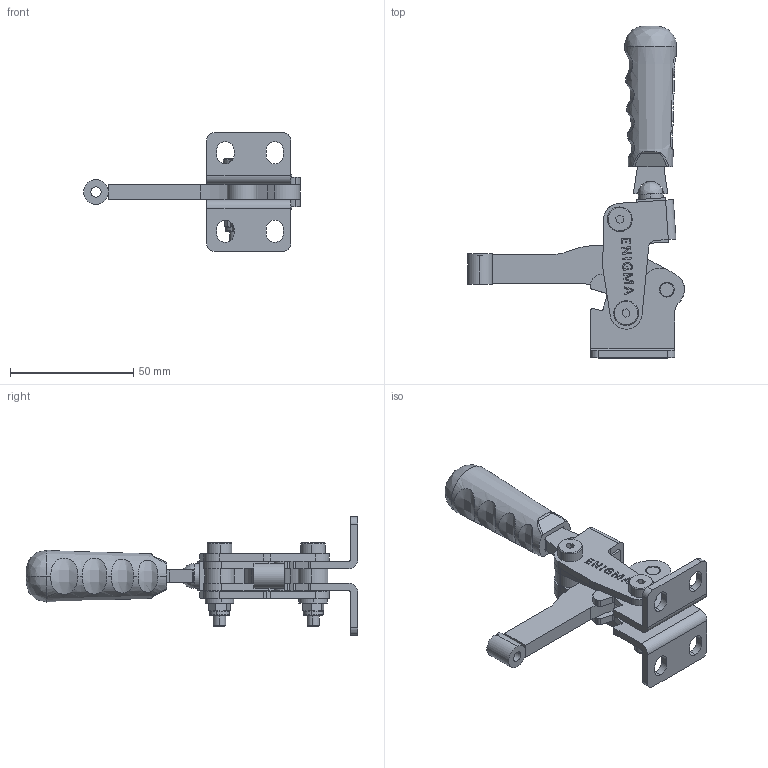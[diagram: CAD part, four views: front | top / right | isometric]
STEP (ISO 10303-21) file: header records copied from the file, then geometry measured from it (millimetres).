
FILE_DESCRIPTION (( 'STEP AP203' ), '1' );
FILE_NAME ('1581_Y.STEP', '2022-11-30T09:18:52', ( '' ), ( '' ), 'SwSTEP 2.0', 'SolidWorks 2023', '' );
FILE_SCHEMA (( 'CONFIG_CONTROL_DESIGN' ));
Length unit declared in the file: millimetre
Products named in the file (15): 1581_HAREKET_KOLU_SAPI; 1581_Rondela; Ağır_Seri_Ø6x12_Tırtıllı_Pim; 1531_1581_BASKI_KOLU; M5_Lama_Kaynak_Somunu; G39_M5_6x20_Yay_Askı_Civatası; 1531_1581_Y_GÖVDE; 1581_Y; Aynalama1531_1581_Y_GÖVDE; 1581_HAREKET_KOLU; C55_Yeni_Tutamak; M5_FİBERLİ_SOMUN; Ø12xØ6x6_YÜZÜK; 1531_1581_MAFSAL; 1581_Küre_Kaynak_Parçası_Otomat
Assembly tree (20 placements, depth 2):
  1581_Y
    1531_1581_Y_GÖVDE
    1531_1581_MAFSAL  x2
    1531_1581_BASKI_KOLU
    1581_HAREKET_KOLU
    Ø12xØ6x6_YÜZÜK  x2
    1581_Küre_Kaynak_Parçası_Otomat
    Ağır_Seri_Ø6x12_Tırtıllı_Pim  x2
    G39_M5_6x20_Yay_Askı_Civatası  x2
    Aynalama1531_1581_Y_GÖVDE
    1581_Rondela  x2
    M5_FİBERLİ_SOMUN  x2
    M5_Lama_Kaynak_Somunu
    1581_HAREKET_KOLU_SAPI
    C55_Yeni_Tutamak
Bounding box: 87.9 x 134.53 x 48 mm (x, y, z)
Volume: 47950.8 mm3; surface area: 32393 mm2
Topology: 20 solids, 20 shells, 1295 faces, 3485 edges, 2300 vertices
Faces by surface type: plane 625, bspline 331, cylinder 285, cone 42, torus 12
Entity records: 41045 total; most frequent: CARTESIAN_POINT 18601, ORIENTED_EDGE 4646, DIRECTION 3723, EDGE_CURVE 2323, VERTEX_POINT 1536, LINE 1343, VECTOR 1343, AXIS2_PLACEMENT_3D 1190
